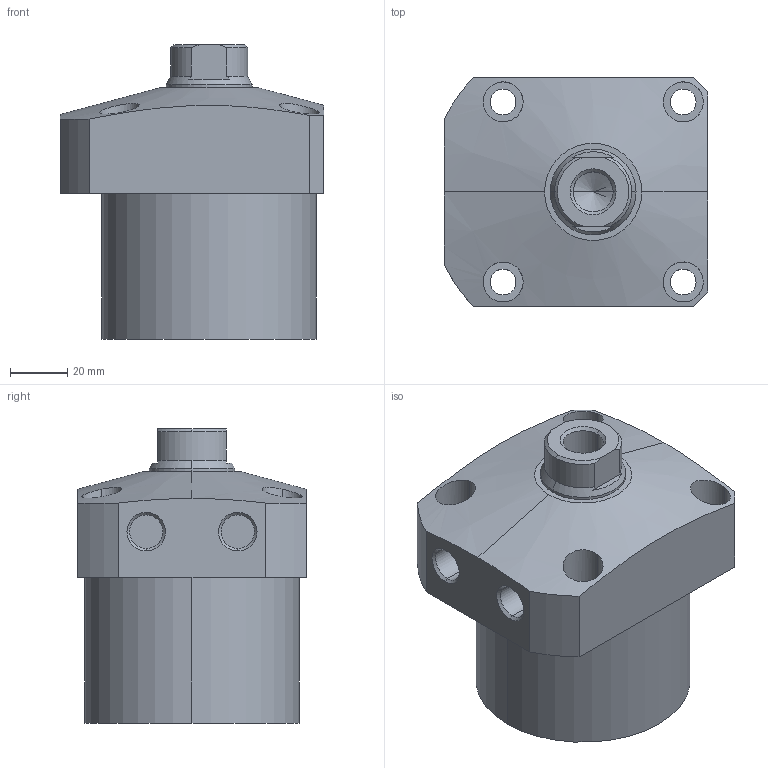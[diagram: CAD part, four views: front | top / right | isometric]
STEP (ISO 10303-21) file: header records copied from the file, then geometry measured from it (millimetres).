
FILE_DESCRIPTION (( 'STEP AP203' ), '1' );
FILE_NAME ('CLL-075CA-035.STEP', '2019-12-20T05:44:08', ( '' ), ( '' ), 'SwSTEP 2.0', 'SolidWorks 2015', '' );
FILE_SCHEMA (( 'CONFIG_CONTROL_DESIGN' ));
Length unit declared in the file: millimetre
Products named in the file (1): CLL-075CA-035
Bounding box: 92 x 80 x 103 mm (x, y, z)
Volume: 447946.5 mm3; surface area: 43317.5 mm2
Topology: 1 solids, 1 shells, 72 faces, 169 edges, 108 vertices
Faces by surface type: cylinder 35, plane 22, cone 15
Entity records: 2557 total; most frequent: CARTESIAN_POINT 792, DIRECTION 366, ORIENTED_EDGE 334, EDGE_CURVE 167, AXIS2_PLACEMENT_3D 150, VERTEX_POINT 108, EDGE_LOOP 91, CIRCLE 77
